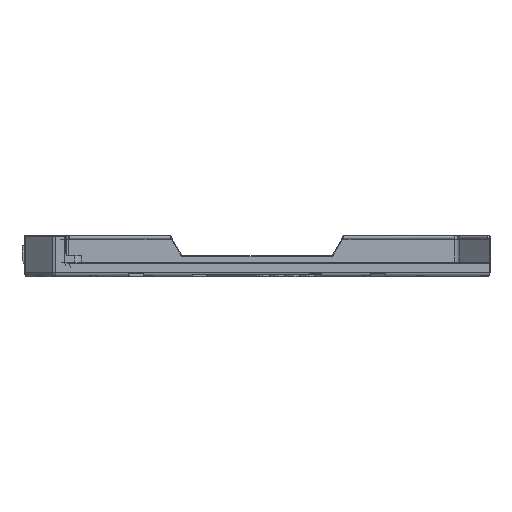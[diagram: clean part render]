
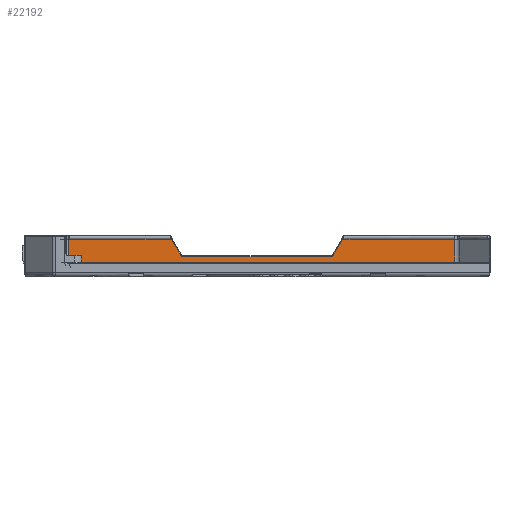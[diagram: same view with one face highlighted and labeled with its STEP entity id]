
A CAD part, left-side view. The second image highlights one B-rep face of the part: STEP entity #22192.
In plain terms, the highlighted planar face has unit normal (-1, 0, 0).
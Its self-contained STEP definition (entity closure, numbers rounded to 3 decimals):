
#5248=CARTESIAN_POINT('',(248.283,35.408,3.));
#5263=CARTESIAN_POINT('',(248.283,76.792,3.));
#5293=CARTESIAN_POINT('',(248.283,35.408,3.2));
#5294=DIRECTION('',(1.,0.,0.));
#5295=DIRECTION('',(0.,0.,-1.));
#5296=AXIS2_PLACEMENT_3D('',#5293,#5294,#5295);
#5314=DIRECTION('',(0.,0.5,0.866));
#5315=VECTOR('',#5314,4.419);
#5316=CARTESIAN_POINT('',(248.283,74.482,
-0.8));
#5317=LINE('',#5316,#5315);
#5318=CARTESIAN_POINT('',(248.283,73.789,-0.4));
#5319=DIRECTION('',(1.,0.,0.));
#5320=DIRECTION('',(0.,0.,-1.));
#5321=AXIS2_PLACEMENT_3D('',#5318,#5319,#5320);
#5323=DIRECTION('',(0.,1.,0.));
#5324=VECTOR('',#5323,35.379);
#5325=CARTESIAN_POINT('',(248.283,38.411,-1.2));
#5326=LINE('',#5325,#5324);
#5327=CARTESIAN_POINT('',(248.283,38.411,-0.4));
#5328=DIRECTION('',(1.,0.,0.));
#5329=DIRECTION('',(0.,-0.866,-0.5));
#5330=AXIS2_PLACEMENT_3D('',#5327,#5328,#5329);
#5332=DIRECTION('',(0.,0.5,-0.866));
#5333=VECTOR('',#5332,4.419);
#5334=CARTESIAN_POINT('',(248.283,35.508,3.027));
#5335=LINE('',#5334,#5333);
#5336=DIRECTION('',(0.,1.,0.));
#5337=VECTOR('',#5336,26.881);
#5338=CARTESIAN_POINT('',(248.283,8.528,3.));
#5339=LINE('',#5338,#5337);
#5340=DIRECTION('',(0.,-1.,0.));
#5341=VECTOR('',#5340,0.045);
#5342=CARTESIAN_POINT('',(248.283,8.528,3.));
#5343=LINE('',#5342,#5341);
#5344=DIRECTION('',(0.,0.,1.));
#5345=VECTOR('',#5344,5.5);
#5346=CARTESIAN_POINT('',(248.283,101.517,-2.5));
#5347=LINE('',#5346,#5345);
#5348=DIRECTION('',(0.,-1.,0.));
#5349=VECTOR('',#5348,0.052);
#5350=CARTESIAN_POINT('',(248.283,101.517,3.));
#5351=LINE('',#5350,#5349);
#5352=DIRECTION('',(0.,1.,0.));
#5353=VECTOR('',#5352,24.673);
#5354=CARTESIAN_POINT('',(248.283,76.792,3.));
#5355=LINE('',#5354,#5353);
#5404=CARTESIAN_POINT('',(248.283,76.792,3.2));
#5405=DIRECTION('',(1.,0.,0.));
#5406=DIRECTION('',(0.,-0.5,-0.866));
#5407=AXIS2_PLACEMENT_3D('',#5404,#5405,#5406);
#5527=CARTESIAN_POINT('',(248.283,8.483,3.));
#5532=DIRECTION('',(0.,0.,1.));
#5533=VECTOR('',#5532,5.5);
#5534=CARTESIAN_POINT('',(248.283,8.483,-2.5));
#5535=LINE('',#5534,#5533);
#6996=CARTESIAN_POINT('',(248.283,101.517,-2.5));
#7001=CARTESIAN_POINT('',(248.283,101.517,3.));
#7007=DIRECTION('',(0.,-1.,0.));
#7008=VECTOR('',#7007,93.035);
#7009=CARTESIAN_POINT('',(248.283,101.517,-2.5));
#7010=LINE('',#7009,#7008);
#12251=VERTEX_POINT('',#6996);
#12252=CARTESIAN_POINT('',(248.283,8.483,
-2.5));
#12253=VERTEX_POINT('',#12252);
#15274=VERTEX_POINT('',#5248);
#15309=VERTEX_POINT('',#5263);
#15314=CARTESIAN_POINT('',(248.283,74.482,
-0.8));
#15315=CARTESIAN_POINT('',(248.283,76.692,3.027));
#15316=VERTEX_POINT('',#15314);
#15317=VERTEX_POINT('',#15315);
#15318=CARTESIAN_POINT('',(248.283,73.789,-1.2));
#15319=VERTEX_POINT('',#15318);
#15322=CARTESIAN_POINT('',(248.283,38.411,
-1.2));
#15323=VERTEX_POINT('',#15322);
#15326=CARTESIAN_POINT('',(248.283,37.718,-0.8));
#15327=VERTEX_POINT('',#15326);
#15330=CARTESIAN_POINT('',(248.283,35.508,3.027));
#15331=VERTEX_POINT('',#15330);
#15393=VERTEX_POINT('',#7001);
#15394=VERTEX_POINT('',#5527);
#15443=CARTESIAN_POINT('',(248.283,101.465,3.));
#15444=VERTEX_POINT('',#15443);
#15447=CARTESIAN_POINT('',(248.283,8.528,3.));
#15448=VERTEX_POINT('',#15447);
#22162=CARTESIAN_POINT('',(248.283,101.517,-2.5));
#22163=DIRECTION('',(-1.,0.,0.));
#22164=DIRECTION('',(0.,-1.,0.));
#22165=AXIS2_PLACEMENT_3D('',#22162,#22163,#22164);
#22166=PLANE('',#22165);
#22168=ORIENTED_EDGE('',*,*,#22167,.F.);
#22170=ORIENTED_EDGE('',*,*,#22169,.F.);
#22172=ORIENTED_EDGE('',*,*,#22171,.F.);
#22174=ORIENTED_EDGE('',*,*,#22173,.F.);
#22176=ORIENTED_EDGE('',*,*,#22175,.F.);
#22177=ORIENTED_EDGE('',*,*,#22150,.F.);
#22178=ORIENTED_EDGE('',*,*,#21913,.F.);
#22179=ORIENTED_EDGE('',*,*,#21595,.T.);
#22181=ORIENTED_EDGE('',*,*,#22180,.F.);
#22183=ORIENTED_EDGE('',*,*,#22182,.F.);
#22185=ORIENTED_EDGE('',*,*,#22184,.T.);
#22186=ORIENTED_EDGE('',*,*,#21583,.T.);
#22187=ORIENTED_EDGE('',*,*,#21925,.F.);
#22189=ORIENTED_EDGE('',*,*,#22188,.F.);
#22190=EDGE_LOOP('',(#22168,#22170,#22172,#22174,#22176,#22177,#22178,#22179,
#22181,#22183,#22185,#22186,#22187,#22189));
#22191=FACE_OUTER_BOUND('',#22190,.F.);
#22192=ADVANCED_FACE('',(#22191),#22166,.T.);
#5297=CIRCLE('',#5296,0.2);
#5322=CIRCLE('',#5321,0.8);
#5331=CIRCLE('',#5330,0.8);
#5408=CIRCLE('',#5407,0.2);
#21583=EDGE_CURVE('',#15393,#15444,#5351,.T.);
#21595=EDGE_CURVE('',#15448,#15394,#5343,.T.);
#21913=EDGE_CURVE('',#15448,#15274,#5339,.T.);
#21925=EDGE_CURVE('',#15309,#15444,#5355,.T.);
#22150=EDGE_CURVE('',#15274,#15331,#5297,.T.);
#22167=EDGE_CURVE('',#15316,#15317,#5317,.T.);
#22169=EDGE_CURVE('',#15319,#15316,#5322,.T.);
#22171=EDGE_CURVE('',#15323,#15319,#5326,.T.);
#22173=EDGE_CURVE('',#15327,#15323,#5331,.T.);
#22175=EDGE_CURVE('',#15331,#15327,#5335,.T.);
#22180=EDGE_CURVE('',#12253,#15394,#5535,.T.);
#22182=EDGE_CURVE('',#12251,#12253,#7010,.T.);
#22184=EDGE_CURVE('',#12251,#15393,#5347,.T.);
#22188=EDGE_CURVE('',#15317,#15309,#5408,.T.);
